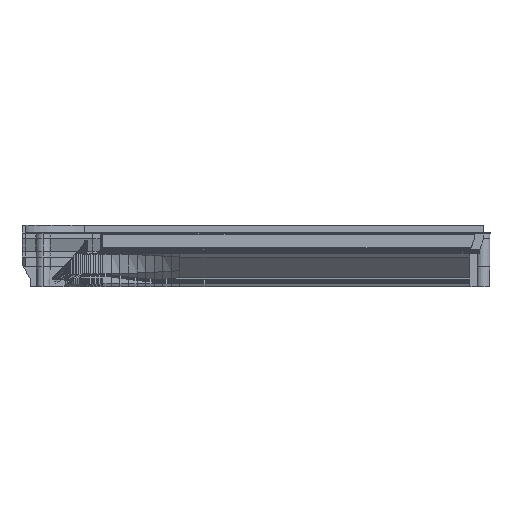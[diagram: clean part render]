
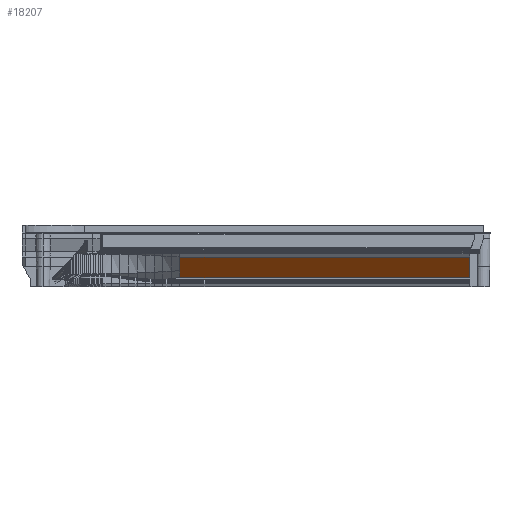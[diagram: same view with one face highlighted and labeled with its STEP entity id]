
A CAD part, front view. The second image highlights one B-rep face of the part: STEP entity #18207.
In plain terms, the highlighted planar face has unit normal (0, -0.707, -0.707).
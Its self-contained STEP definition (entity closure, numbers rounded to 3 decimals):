
#2226 = PLANE('',#2227);
#2227 = AXIS2_PLACEMENT_3D('',#2228,#2229,#2230);
#2228 = CARTESIAN_POINT('',(-0.1,148.4,15.5));
#2229 = DIRECTION('',(1.,0.,0.));
#2230 = DIRECTION('',(-0.,1.,0.));
#7074 = PLANE('',#7075);
#7075 = AXIS2_PLACEMENT_3D('',#7076,#7077,#7078);
#7076 = CARTESIAN_POINT('',(-126.7,156.995,13.005));
#7077 = DIRECTION('',(-0.,-0.777,-0.63));
#7078 = DIRECTION('',(0.,-0.63,0.777));
#7111 = EDGE_CURVE('',#7112,#7114,#7116,.T.);
#7112 = VERTEX_POINT('',#7113);
#7113 = CARTESIAN_POINT('',(-0.1,156.995,13.005));
#7114 = VERTEX_POINT('',#7115);
#7115 = CARTESIAN_POINT('',(-0.1,166.,4.));
#7116 = SURFACE_CURVE('',#7117,(#7121,#7128),.PCURVE_S1.);
#7117 = LINE('',#7118,#7119);
#7118 = CARTESIAN_POINT('',(-0.1,156.995,13.005));
#7119 = VECTOR('',#7120,1.);
#7120 = DIRECTION('',(0.,0.707,-0.707));
#7121 = PCURVE('',#2226,#7122);
#7122 = DEFINITIONAL_REPRESENTATION('',(#7123),#7127);
#7123 = LINE('',#7124,#7125);
#7124 = CARTESIAN_POINT('',(8.595,-2.495));
#7125 = VECTOR('',#7126,1.);
#7126 = DIRECTION('',(0.707,-0.707));
#7127 = ( GEOMETRIC_REPRESENTATION_CONTEXT(2) 
PARAMETRIC_REPRESENTATION_CONTEXT() REPRESENTATION_CONTEXT('2D SPACE',''
  ) );
#7128 = PCURVE('',#7129,#7134);
#7129 = PLANE('',#7130);
#7130 = AXIS2_PLACEMENT_3D('',#7131,#7132,#7133);
#7131 = CARTESIAN_POINT('',(-126.7,166.,4.));
#7132 = DIRECTION('',(-0.,-0.707,-0.707));
#7133 = DIRECTION('',(0.,-0.707,0.707));
#7134 = DEFINITIONAL_REPRESENTATION('',(#7135),#7139);
#7135 = LINE('',#7136,#7137);
#7136 = CARTESIAN_POINT('',(12.735,-126.6));
#7137 = VECTOR('',#7138,1.);
#7138 = DIRECTION('',(-1.,0.));
#7139 = ( GEOMETRIC_REPRESENTATION_CONTEXT(2) 
PARAMETRIC_REPRESENTATION_CONTEXT() REPRESENTATION_CONTEXT('2D SPACE',''
  ) );
#7157 = PLANE('',#7158);
#7158 = AXIS2_PLACEMENT_3D('',#7159,#7160,#7161);
#7159 = CARTESIAN_POINT('',(168.,166.,2.8));
#7160 = DIRECTION('',(0.,-1.,0.));
#7161 = DIRECTION('',(-1.,0.,0.));
#16411 = EDGE_CURVE('',#7112,#16412,#16414,.T.);
#16412 = VERTEX_POINT('',#16413);
#16413 = CARTESIAN_POINT('',(-126.4,156.995,13.005));
#16414 = SURFACE_CURVE('',#16415,(#16418,#16424),.PCURVE_S1.);
#16415 = B_SPLINE_CURVE_WITH_KNOTS('',1,(#16416,#16417),.UNSPECIFIED.,
  .F.,.F.,(2,2),(0.,1.),.PIECEWISE_BEZIER_KNOTS.);
#16416 = CARTESIAN_POINT('',(126.7,156.995,13.005));
#16417 = CARTESIAN_POINT('',(-126.7,156.995,13.005));
#16418 = PCURVE('',#7074,#16419);
#16419 = DEFINITIONAL_REPRESENTATION('',(#16420),#16423);
#16420 = B_SPLINE_CURVE_WITH_KNOTS('',1,(#16421,#16422),.UNSPECIFIED.,
  .F.,.F.,(2,2),(0.,1.),.PIECEWISE_BEZIER_KNOTS.);
#16421 = CARTESIAN_POINT('',(0.,-253.4));
#16422 = CARTESIAN_POINT('',(0.,0.));
#16423 = ( GEOMETRIC_REPRESENTATION_CONTEXT(2) 
PARAMETRIC_REPRESENTATION_CONTEXT() REPRESENTATION_CONTEXT('2D SPACE',''
  ) );
#16424 = PCURVE('',#7129,#16425);
#16425 = DEFINITIONAL_REPRESENTATION('',(#16426),#16429);
#16426 = B_SPLINE_CURVE_WITH_KNOTS('',1,(#16427,#16428),.UNSPECIFIED.,
  .F.,.F.,(2,2),(0.,1.),.PIECEWISE_BEZIER_KNOTS.);
#16427 = CARTESIAN_POINT('',(12.735,-253.4));
#16428 = CARTESIAN_POINT('',(12.735,0.));
#16429 = ( GEOMETRIC_REPRESENTATION_CONTEXT(2) 
PARAMETRIC_REPRESENTATION_CONTEXT() REPRESENTATION_CONTEXT('2D SPACE',''
  ) );
#18207 = ADVANCED_FACE('',(#18208),#7129,.T.);
#18208 = FACE_BOUND('',#18209,.T.);
#18209 = EDGE_LOOP('',(#18210,#18230,#18231,#18232,#18260));
#18210 = ORIENTED_EDGE('',*,*,#18211,.F.);
#18211 = EDGE_CURVE('',#7114,#18212,#18214,.T.);
#18212 = VERTEX_POINT('',#18213);
#18213 = CARTESIAN_POINT('',(-126.4,166.,4.));
#18214 = SURFACE_CURVE('',#18215,(#18218,#18224),.PCURVE_S1.);
#18215 = B_SPLINE_CURVE_WITH_KNOTS('',1,(#18216,#18217),.UNSPECIFIED.,
  .F.,.F.,(2,2),(0.,1.),.PIECEWISE_BEZIER_KNOTS.);
#18216 = CARTESIAN_POINT('',(126.7,166.,4.));
#18217 = CARTESIAN_POINT('',(-126.7,166.,4.));
#18218 = PCURVE('',#7129,#18219);
#18219 = DEFINITIONAL_REPRESENTATION('',(#18220),#18223);
#18220 = B_SPLINE_CURVE_WITH_KNOTS('',1,(#18221,#18222),.UNSPECIFIED.,
  .F.,.F.,(2,2),(0.,1.),.PIECEWISE_BEZIER_KNOTS.);
#18221 = CARTESIAN_POINT('',(0.,-253.4));
#18222 = CARTESIAN_POINT('',(0.,0.));
#18223 = ( GEOMETRIC_REPRESENTATION_CONTEXT(2) 
PARAMETRIC_REPRESENTATION_CONTEXT() REPRESENTATION_CONTEXT('2D SPACE',''
  ) );
#18224 = PCURVE('',#7157,#18225);
#18225 = DEFINITIONAL_REPRESENTATION('',(#18226),#18229);
#18226 = B_SPLINE_CURVE_WITH_KNOTS('',1,(#18227,#18228),.UNSPECIFIED.,
  .F.,.F.,(2,2),(0.,1.),.PIECEWISE_BEZIER_KNOTS.);
#18227 = CARTESIAN_POINT('',(41.3,-1.2));
#18228 = CARTESIAN_POINT('',(294.7,-1.2));
#18229 = ( GEOMETRIC_REPRESENTATION_CONTEXT(2) 
PARAMETRIC_REPRESENTATION_CONTEXT() REPRESENTATION_CONTEXT('2D SPACE',''
  ) );
#18230 = ORIENTED_EDGE('',*,*,#7111,.F.);
#18231 = ORIENTED_EDGE('',*,*,#16411,.T.);
#18232 = ORIENTED_EDGE('',*,*,#18233,.F.);
#18233 = EDGE_CURVE('',#18234,#16412,#18236,.T.);
#18234 = VERTEX_POINT('',#18235);
#18235 = CARTESIAN_POINT('',(-126.4,163.005,6.995));
#18236 = SURFACE_CURVE('',#18237,(#18241,#18248),.PCURVE_S1.);
#18237 = LINE('',#18238,#18239);
#18238 = CARTESIAN_POINT('',(-126.4,163.005,6.995));
#18239 = VECTOR('',#18240,1.);
#18240 = DIRECTION('',(0.,-0.707,0.707));
#18241 = PCURVE('',#7129,#18242);
#18242 = DEFINITIONAL_REPRESENTATION('',(#18243),#18247);
#18243 = LINE('',#18244,#18245);
#18244 = CARTESIAN_POINT('',(4.235,-0.3));
#18245 = VECTOR('',#18246,1.);
#18246 = DIRECTION('',(1.,0.));
#18247 = ( GEOMETRIC_REPRESENTATION_CONTEXT(2) 
PARAMETRIC_REPRESENTATION_CONTEXT() REPRESENTATION_CONTEXT('2D SPACE',''
  ) );
#18248 = PCURVE('',#18249,#18254);
#18249 = B_SPLINE_SURFACE_WITH_KNOTS('',1,1,(
    (#18250,#18251)
    ,(#18252,#18253
    )),.UNSPECIFIED.,.F.,.F.,.F.,(2,2),(2,2),(0.,8.5),(0.,1.),
  .PIECEWISE_BEZIER_KNOTS.);
#18250 = CARTESIAN_POINT('',(-126.4,163.005,6.995));
#18251 = CARTESIAN_POINT('',(-130.133,162.844,
    6.842));
#18252 = CARTESIAN_POINT('',(-126.4,156.995,13.005));
#18253 = CARTESIAN_POINT('',(-130.133,157.156,
    13.158));
#18254 = DEFINITIONAL_REPRESENTATION('',(#18255),#18259);
#18255 = LINE('',#18256,#18257);
#18256 = CARTESIAN_POINT('',(0.,0.));
#18257 = VECTOR('',#18258,1.);
#18258 = DIRECTION('',(1.,0.));
#18259 = ( GEOMETRIC_REPRESENTATION_CONTEXT(2) 
PARAMETRIC_REPRESENTATION_CONTEXT() REPRESENTATION_CONTEXT('2D SPACE',''
  ) );
#18260 = ORIENTED_EDGE('',*,*,#18261,.F.);
#18261 = EDGE_CURVE('',#18212,#18234,#18262,.T.);
#18262 = SURFACE_CURVE('',#18263,(#18267,#18274),.PCURVE_S1.);
#18263 = LINE('',#18264,#18265);
#18264 = CARTESIAN_POINT('',(-126.4,166.,4.));
#18265 = VECTOR('',#18266,1.);
#18266 = DIRECTION('',(0.,-0.707,0.707));
#18267 = PCURVE('',#7129,#18268);
#18268 = DEFINITIONAL_REPRESENTATION('',(#18269),#18273);
#18269 = LINE('',#18270,#18271);
#18270 = CARTESIAN_POINT('',(0.,-0.3));
#18271 = VECTOR('',#18272,1.);
#18272 = DIRECTION('',(1.,0.));
#18273 = ( GEOMETRIC_REPRESENTATION_CONTEXT(2) 
PARAMETRIC_REPRESENTATION_CONTEXT() REPRESENTATION_CONTEXT('2D SPACE',''
  ) );
#18274 = PCURVE('',#18275,#18280);
#18275 = B_SPLINE_SURFACE_WITH_KNOTS('',1,1,(
    (#18276,#18277)
    ,(#18278,#18279
    )),.UNSPECIFIED.,.F.,.F.,.F.,(2,2),(2,2),(0.,4.464),(0.,1.)
  ,.PIECEWISE_BEZIER_KNOTS.);
#18276 = CARTESIAN_POINT('',(-126.4,166.,4.));
#18277 = CARTESIAN_POINT('',(-130.133,166.,3.685));
#18278 = CARTESIAN_POINT('',(-126.4,163.005,6.995));
#18279 = CARTESIAN_POINT('',(-130.133,162.844,
    6.842));
#18280 = DEFINITIONAL_REPRESENTATION('',(#18281),#18284);
#18281 = B_SPLINE_CURVE_WITH_KNOTS('',1,(#18282,#18283),.UNSPECIFIED.,
  .F.,.F.,(2,2),(0.,4.235),.PIECEWISE_BEZIER_KNOTS.);
#18282 = CARTESIAN_POINT('',(0.,0.));
#18283 = CARTESIAN_POINT('',(4.464,0.));
#18284 = ( GEOMETRIC_REPRESENTATION_CONTEXT(2) 
PARAMETRIC_REPRESENTATION_CONTEXT() REPRESENTATION_CONTEXT('2D SPACE',''
  ) );
